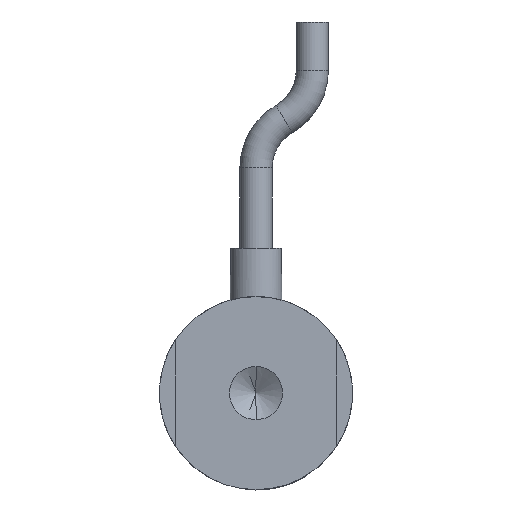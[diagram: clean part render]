
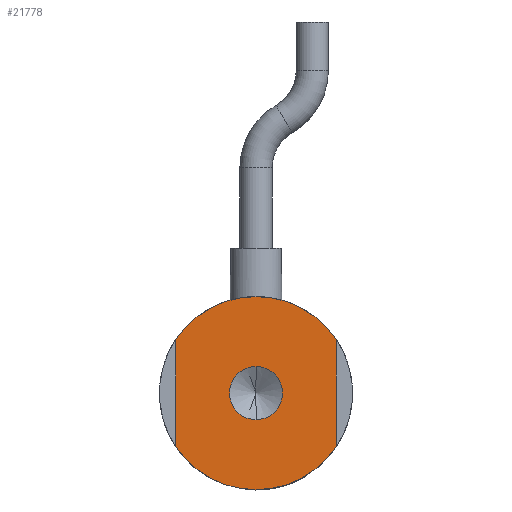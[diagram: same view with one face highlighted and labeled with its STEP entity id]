
A CAD part, front view. The second image highlights one B-rep face of the part: STEP entity #21778.
In plain terms, the highlighted planar face has unit normal (0, -1, 0).
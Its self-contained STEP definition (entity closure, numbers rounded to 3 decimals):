
#362 = VERTEX_POINT ( 'NONE', #35729 ) ;
#1022 = CIRCLE ( 'NONE', #19173, 6. ) ;
#2219 = ORIENTED_EDGE ( 'NONE', *, *, #39467, .F. ) ;
#2929 = CARTESIAN_POINT ( 'NONE',  ( 0., 0., 0. ) ) ;
#2943 = VERTEX_POINT ( 'NONE', #39202 ) ;
#4259 = ORIENTED_EDGE ( 'NONE', *, *, #22465, .F. ) ;
#4998 = DIRECTION ( 'NONE',  ( 0., -1., 0. ) ) ;
#5565 = CARTESIAN_POINT ( 'NONE',  ( -5., 0., 0. ) ) ;
#6003 = VERTEX_POINT ( 'NONE', #18744 ) ;
#6351 = AXIS2_PLACEMENT_3D ( 'NONE', #26152, #4998, #29457 ) ;
#6492 = DIRECTION ( 'NONE',  ( 0., 0., 1. ) ) ;
#6662 = ORIENTED_EDGE ( 'NONE', *, *, #34815, .F. ) ;
#6702 = ORIENTED_EDGE ( 'NONE', *, *, #35723, .F. ) ;
#7670 = DIRECTION ( 'NONE',  ( 0., 0., -1. ) ) ;
#7846 = VERTEX_POINT ( 'NONE', #27094 ) ;
#7914 = AXIS2_PLACEMENT_3D ( 'NONE', #30532, #16928, #40644 ) ;
#9985 = CIRCLE ( 'NONE', #6351, 1.65 ) ;
#10093 = CARTESIAN_POINT ( 'NONE',  ( 0., 0., 0. ) ) ;
#11291 = ORIENTED_EDGE ( 'NONE', *, *, #14783, .F. ) ;
#11315 = CARTESIAN_POINT ( 'NONE',  ( 5., 0., 0. ) ) ;
#11986 = ORIENTED_EDGE ( 'NONE', *, *, #38580, .F. ) ;
#12796 = VERTEX_POINT ( 'NONE', #35147 ) ;
#12989 = AXIS2_PLACEMENT_3D ( 'NONE', #10093, #34161, #13676 ) ;
#13676 = DIRECTION ( 'NONE',  ( 0., 0., -1. ) ) ;
#14783 = EDGE_CURVE ( 'NONE', #362, #7846, #28089, .T. ) ;
#14786 = DIRECTION ( 'NONE',  ( 0., 1., 0. ) ) ;
#15371 = AXIS2_PLACEMENT_3D ( 'NONE', #17520, #41212, #21062 ) ;
#16230 = AXIS2_PLACEMENT_3D ( 'NONE', #35199, #14786, #38581 ) ;
#16559 = ORIENTED_EDGE ( 'NONE', *, *, #21210, .F. ) ;
#16786 = ORIENTED_EDGE ( 'NONE', *, *, #35656, .F. ) ;
#16928 = DIRECTION ( 'NONE',  ( 0., 1., 0. ) ) ;
#17305 = DIRECTION ( 'NONE',  ( 0., 1., 0. ) ) ;
#17520 = CARTESIAN_POINT ( 'NONE',  ( 0., 0., 0. ) ) ;
#17539 = LINE ( 'NONE', #5565, #25714 ) ;
#18744 = CARTESIAN_POINT ( 'NONE',  ( 0., 0., -1.65 ) ) ;
#19173 = AXIS2_PLACEMENT_3D ( 'NONE', #2929, #27517, #6492 ) ;
#21062 = DIRECTION ( 'NONE',  ( 0., 0., 1. ) ) ;
#21210 = EDGE_CURVE ( 'NONE', #2943, #44145, #34581, .T. ) ;
#21778 = ADVANCED_FACE ( 'NONE', ( #37186, #35092 ), #37255, .F. ) ;
#22465 = EDGE_CURVE ( 'NONE', #44145, #28211, #17539, .T. ) ;
#22810 = CIRCLE ( 'NONE', #34491, 6. ) ;
#25257 = CARTESIAN_POINT ( 'NONE',  ( -5., 0., -3.317 ) ) ;
#25714 = VECTOR ( 'NONE', #30143, 1000. ) ;
#26152 = CARTESIAN_POINT ( 'NONE',  ( 0., 0., 0. ) ) ;
#26303 = EDGE_LOOP ( 'NONE', ( #4259, #16559, #6662, #11291, #6702, #11986 ) ) ;
#27094 = CARTESIAN_POINT ( 'NONE',  ( 5., 0., -3.317 ) ) ;
#27517 = DIRECTION ( 'NONE',  ( 0., 1., 0. ) ) ;
#28089 = LINE ( 'NONE', #11315, #35944 ) ;
#28211 = VERTEX_POINT ( 'NONE', #39936 ) ;
#29457 = DIRECTION ( 'NONE',  ( 0., 0., -1. ) ) ;
#30143 = DIRECTION ( 'NONE',  ( 0., 0., 1. ) ) ;
#30532 = CARTESIAN_POINT ( 'NONE',  ( 0., 0., 0. ) ) ;
#32268 = EDGE_LOOP ( 'NONE', ( #16786, #2219 ) ) ;
#33221 = CIRCLE ( 'NONE', #15371, 6. ) ;
#33338 = CARTESIAN_POINT ( 'NONE',  ( 0., 0., 1.65 ) ) ;
#34161 = DIRECTION ( 'NONE',  ( 0., -1., 0. ) ) ;
#34491 = AXIS2_PLACEMENT_3D ( 'NONE', #37617, #17305, #41011 ) ;
#34581 = CIRCLE ( 'NONE', #16230, 6. ) ;
#34815 = EDGE_CURVE ( 'NONE', #7846, #2943, #22810, .T. ) ;
#35092 = FACE_OUTER_BOUND ( 'NONE', #26303, .T. ) ;
#35147 = CARTESIAN_POINT ( 'NONE',  ( 0., 0., 6. ) ) ;
#35199 = CARTESIAN_POINT ( 'NONE',  ( 0., 0., 0. ) ) ;
#35656 = EDGE_CURVE ( 'NONE', #6003, #38373, #42216, .T. ) ;
#35723 = EDGE_CURVE ( 'NONE', #12796, #362, #33221, .T. ) ;
#35729 = CARTESIAN_POINT ( 'NONE',  ( 5., 0., 3.317 ) ) ;
#35944 = VECTOR ( 'NONE', #7670, 1000. ) ;
#37186 = FACE_BOUND ( 'NONE', #32268, .T. ) ;
#37255 = PLANE ( 'NONE',  #7914 ) ;
#37617 = CARTESIAN_POINT ( 'NONE',  ( 0., 0., 0. ) ) ;
#38373 = VERTEX_POINT ( 'NONE', #33338 ) ;
#38580 = EDGE_CURVE ( 'NONE', #28211, #12796, #1022, .T. ) ;
#38581 = DIRECTION ( 'NONE',  ( 0., 0., 1. ) ) ;
#39202 = CARTESIAN_POINT ( 'NONE',  ( 0., 0., -6. ) ) ;
#39467 = EDGE_CURVE ( 'NONE', #38373, #6003, #9985, .T. ) ;
#39936 = CARTESIAN_POINT ( 'NONE',  ( -5., 0., 3.317 ) ) ;
#40644 = DIRECTION ( 'NONE',  ( 0., 0., 1. ) ) ;
#41011 = DIRECTION ( 'NONE',  ( 0., 0., 1. ) ) ;
#41212 = DIRECTION ( 'NONE',  ( 0., 1., 0. ) ) ;
#42216 = CIRCLE ( 'NONE', #12989, 1.65 ) ;
#44145 = VERTEX_POINT ( 'NONE', #25257 ) ;
